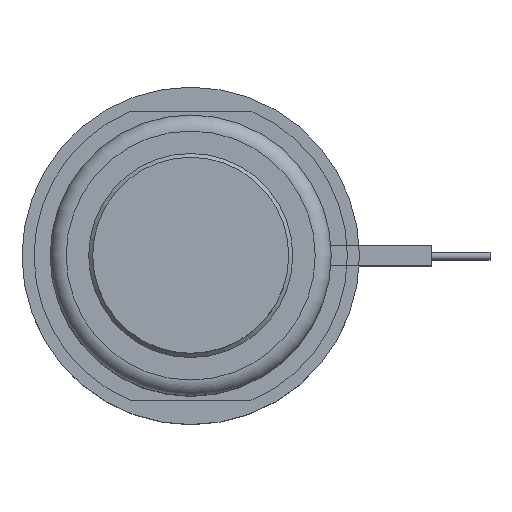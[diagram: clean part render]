
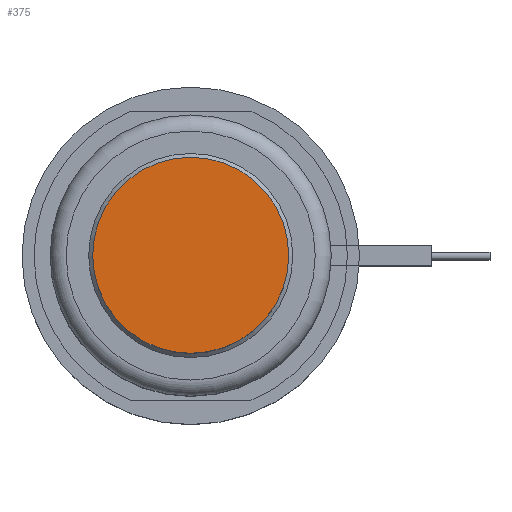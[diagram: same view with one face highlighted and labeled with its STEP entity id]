
A CAD part, top view. The second image highlights one B-rep face of the part: STEP entity #375.
In plain terms, the highlighted planar face has unit normal (0, 0, 1).
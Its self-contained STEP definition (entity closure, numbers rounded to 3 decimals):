
#282=CIRCLE('',#1371,12.2);
#375=ADVANCED_FACE('',(#496),#437,.F.);
#437=PLANE('',#1372);
#496=FACE_OUTER_BOUND('',#604,.T.);
#604=EDGE_LOOP('',(#852));
#852=ORIENTED_EDGE('',*,*,#1128,.F.);
#998=VERTEX_POINT('',#2143);
#1128=EDGE_CURVE('',#998,#998,#282,.T.);
#1371=AXIS2_PLACEMENT_3D('',#2142,#1683,#1684);
#1372=AXIS2_PLACEMENT_3D('',#2144,#1685,#1686);
#1683=DIRECTION('',(0.,0.,-1.));
#1684=DIRECTION('',(-1.,0.,0.));
#1685=DIRECTION('',(0.,0.,-1.));
#1686=DIRECTION('',(-1.,0.,0.));
#2142=CARTESIAN_POINT('',(0.,0.,18.));
#2143=CARTESIAN_POINT('',(-12.2,0.,18.));
#2144=CARTESIAN_POINT('',(0.,0.,18.));
